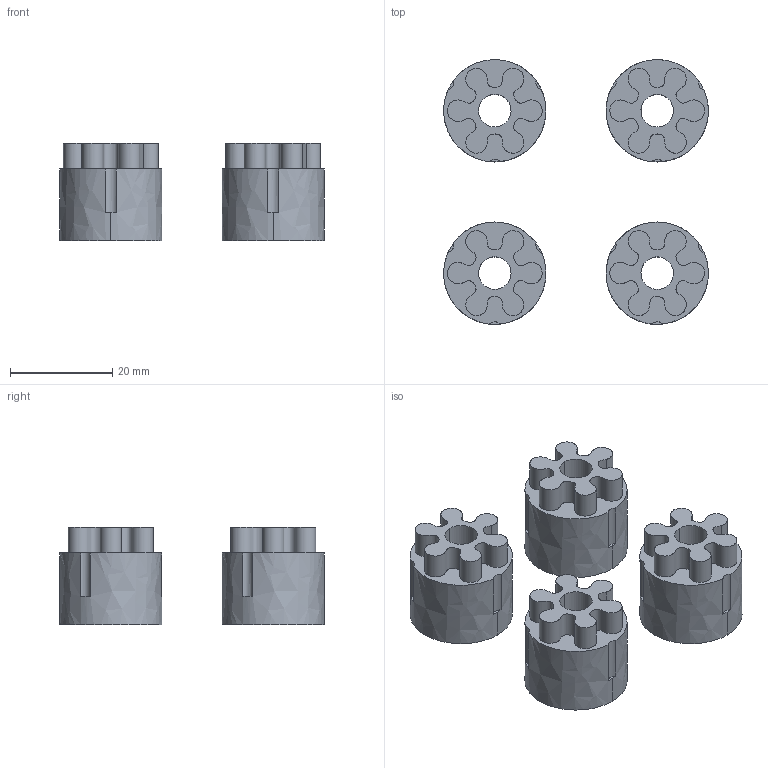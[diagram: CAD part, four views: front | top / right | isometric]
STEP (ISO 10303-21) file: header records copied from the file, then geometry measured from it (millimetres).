
FILE_DESCRIPTION(/* description */ (''),/* implementation_level */ '2;1');
FILE_NAME(/* name */ 'DELRIN~2',/* time_stamp */ '2017-11-06T10:34:13-05:00',/* author */ (''),/* organization */ (''),/* preprocessor_version */ 'ST-DEVELOPER v15',/* originating_system */ '',/* authorisation */ '');
FILE_SCHEMA (('AUTOMOTIVE_DESIGN'));
Length unit declared in the file: millimetre
Products named in the file (1): Document
Bounding box: 51.75 x 51.75 x 19 mm (x, y, z)
Volume: 18542.2 mm3; surface area: 9003.4 mm2
Topology: 4 solids, 4 shells, 60 faces, 144 edges, 96 vertices
Faces by surface type: bspline 36, plane 24
Entity records: 5209 total; most frequent: CARTESIAN_POINT 4338, ORIENTED_EDGE 288, EDGE_CURVE 144, VERTEX_POINT 96, EDGE_LOOP 72, ADVANCED_FACE 60, FACE_OUTER_BOUND 60, DIRECTION 28
